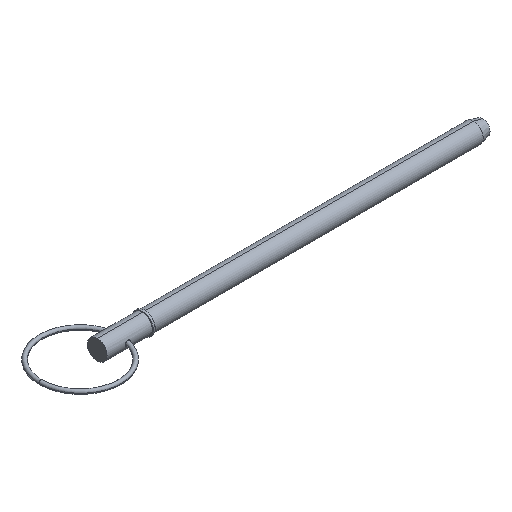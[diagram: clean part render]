
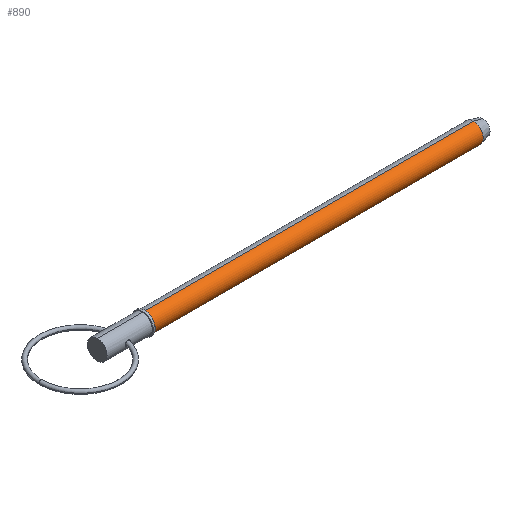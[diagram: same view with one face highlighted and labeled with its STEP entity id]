
A CAD part, isometric view. The second image highlights one B-rep face of the part: STEP entity #890.
In plain terms, the highlighted cylindrical face has radius 3.97 mm (diameter 7.94 mm), a partial arc.
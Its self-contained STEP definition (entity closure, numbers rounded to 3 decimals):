
#19 = CARTESIAN_POINT ( 'NONE',  ( 151.876, 0., 3.97 ) ) ;
#45 = DIRECTION ( 'NONE',  ( 1., 0., 0. ) ) ;
#52 = DIRECTION ( 'NONE',  ( 1., 0., 0. ) ) ;
#71 = EDGE_CURVE ( 'NONE', #308, #804, #119, .T. ) ;
#80 = VECTOR ( 'NONE', #678, 1000. ) ;
#119 = CIRCLE ( 'NONE', #510, 3.97 ) ;
#183 = AXIS2_PLACEMENT_3D ( 'NONE', #962, #446, #910 ) ;
#211 = CYLINDRICAL_SURFACE ( 'NONE', #183, 3.97 ) ;
#258 = CARTESIAN_POINT ( 'NONE',  ( 19.05, 0., -3.97 ) ) ;
#284 = FACE_OUTER_BOUND ( 'NONE', #547, .T. ) ;
#308 = VERTEX_POINT ( 'NONE', #353 ) ;
#315 = ORIENTED_EDGE ( 'NONE', *, *, #375, .F. ) ;
#332 = LINE ( 'NONE', #362, #80 ) ;
#353 = CARTESIAN_POINT ( 'NONE',  ( 19.05, 0., 3.97 ) ) ;
#362 = CARTESIAN_POINT ( 'NONE',  ( 0., 0., -3.97 ) ) ;
#375 = EDGE_CURVE ( 'NONE', #308, #644, #566, .T. ) ;
#403 = ORIENTED_EDGE ( 'NONE', *, *, #919, .T. ) ;
#446 = DIRECTION ( 'NONE',  ( 1., 0., 0. ) ) ;
#449 = VERTEX_POINT ( 'NONE', #500 ) ;
#462 = ORIENTED_EDGE ( 'NONE', *, *, #71, .T. ) ;
#485 = CARTESIAN_POINT ( 'NONE',  ( 0., 0., 3.97 ) ) ;
#500 = CARTESIAN_POINT ( 'NONE',  ( 151.876, 0., -3.97 ) ) ;
#510 = AXIS2_PLACEMENT_3D ( 'NONE', #915, #759, #905 ) ;
#542 = VECTOR ( 'NONE', #45, 1000. ) ;
#544 = CIRCLE ( 'NONE', #670, 3.97 ) ;
#547 = EDGE_LOOP ( 'NONE', ( #315, #462, #403, #648 ) ) ;
#566 = LINE ( 'NONE', #485, #542 ) ;
#644 = VERTEX_POINT ( 'NONE', #19 ) ;
#648 = ORIENTED_EDGE ( 'NONE', *, *, #900, .F. ) ;
#670 = AXIS2_PLACEMENT_3D ( 'NONE', #793, #52, #906 ) ;
#678 = DIRECTION ( 'NONE',  ( 1., 0., 0. ) ) ;
#759 = DIRECTION ( 'NONE',  ( 1., 0., 0. ) ) ;
#793 = CARTESIAN_POINT ( 'NONE',  ( 151.876, 0., 0. ) ) ;
#804 = VERTEX_POINT ( 'NONE', #258 ) ;
#890 = ADVANCED_FACE ( 'NONE', ( #284 ), #211, .T. ) ;
#900 = EDGE_CURVE ( 'NONE', #644, #449, #544, .T. ) ;
#905 = DIRECTION ( 'NONE',  ( 0., 0., -1. ) ) ;
#906 = DIRECTION ( 'NONE',  ( 0., 0., -1. ) ) ;
#910 = DIRECTION ( 'NONE',  ( 0., 0., -1. ) ) ;
#915 = CARTESIAN_POINT ( 'NONE',  ( 19.05, 0., 0. ) ) ;
#919 = EDGE_CURVE ( 'NONE', #804, #449, #332, .T. ) ;
#962 = CARTESIAN_POINT ( 'NONE',  ( 0., 0., 0. ) ) ;
